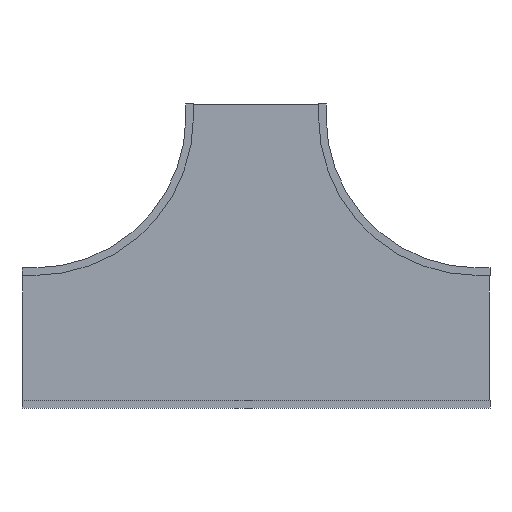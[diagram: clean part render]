
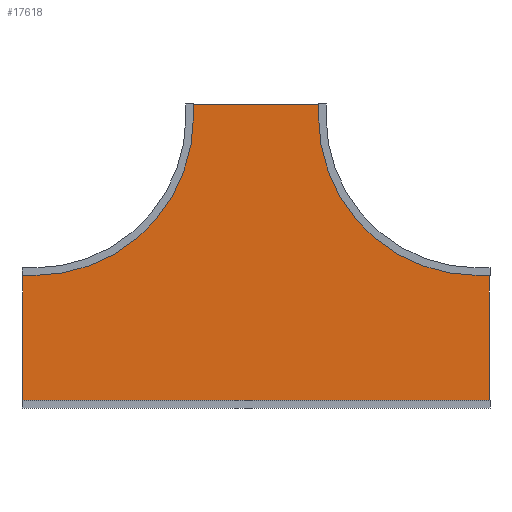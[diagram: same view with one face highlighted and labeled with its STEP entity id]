
A CAD part, front view. The second image highlights one B-rep face of the part: STEP entity #17618.
In plain terms, the highlighted planar face has unit normal (0, -1, 0).
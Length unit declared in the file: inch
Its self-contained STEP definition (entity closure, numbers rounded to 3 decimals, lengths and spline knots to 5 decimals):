
#17427=DIRECTION('',(1.,0.,0.));
#17428=VECTOR('',#17427,29.875);
#17429=CARTESIAN_POINT('',(-14.9375,0.,0.));
#17430=LINE('',#17429,#17428);
#17431=DIRECTION('',(0.,0.,-1.));
#17432=VECTOR('',#17431,2.875);
#17433=CARTESIAN_POINT('',(14.9375,0.,0.));
#17434=LINE('',#17433,#17432);
#17435=CARTESIAN_POINT('',(51.,0.,-2.875));
#17436=DIRECTION('',(0.,-1.,0.));
#17437=DIRECTION('',(-1.,0.,0.));
#17438=AXIS2_PLACEMENT_3D('',#17435,#17436,#17437);
#17440=DIRECTION('',(1.,0.,0.));
#17441=VECTOR('',#17440,2.875);
#17442=CARTESIAN_POINT('',(51.,0.,-38.9375));
#17443=LINE('',#17442,#17441);
#17444=DIRECTION('',(0.,0.,-1.));
#17445=VECTOR('',#17444,29.875);
#17446=CARTESIAN_POINT('',(53.875,0.,-38.9375));
#17447=LINE('',#17446,#17445);
#17448=DIRECTION('',(-1.,0.,0.));
#17449=VECTOR('',#17448,107.75);
#17450=CARTESIAN_POINT('',(53.875,0.,-68.8125));
#17451=LINE('',#17450,#17449);
#17452=DIRECTION('',(0.,0.,1.));
#17453=VECTOR('',#17452,29.875);
#17454=CARTESIAN_POINT('',(-53.875,0.,-68.8125));
#17455=LINE('',#17454,#17453);
#17456=DIRECTION('',(1.,0.,0.));
#17457=VECTOR('',#17456,2.875);
#17458=CARTESIAN_POINT('',(-53.875,0.,-38.9375));
#17459=LINE('',#17458,#17457);
#17460=CARTESIAN_POINT('',(-51.,0.,-2.875));
#17461=DIRECTION('',(0.,-1.,0.));
#17462=DIRECTION('',(0.,0.,-1.));
#17463=AXIS2_PLACEMENT_3D('',#17460,#17461,#17462);
#17465=DIRECTION('',(0.,0.,1.));
#17466=VECTOR('',#17465,2.875);
#17467=CARTESIAN_POINT('',(-14.9375,0.,-2.875));
#17468=LINE('',#17467,#17466);
#17551=CARTESIAN_POINT('',(-14.9375,0.,0.));
#17552=CARTESIAN_POINT('',(14.9375,0.,0.));
#17553=VERTEX_POINT('',#17551);
#17554=VERTEX_POINT('',#17552);
#17555=CARTESIAN_POINT('',(14.9375,0.,-2.875));
#17556=VERTEX_POINT('',#17555);
#17557=CARTESIAN_POINT('',(51.,0.,-38.9375));
#17558=VERTEX_POINT('',#17557);
#17559=CARTESIAN_POINT('',(53.875,0.,-38.9375));
#17560=VERTEX_POINT('',#17559);
#17561=CARTESIAN_POINT('',(53.875,0.,-68.8125));
#17562=VERTEX_POINT('',#17561);
#17563=CARTESIAN_POINT('',(-53.875,0.,-68.8125));
#17564=VERTEX_POINT('',#17563);
#17565=CARTESIAN_POINT('',(-53.875,0.,-38.9375));
#17566=VERTEX_POINT('',#17565);
#17567=CARTESIAN_POINT('',(-51.,0.,-38.9375));
#17568=VERTEX_POINT('',#17567);
#17569=CARTESIAN_POINT('',(-14.9375,0.,-2.875));
#17570=VERTEX_POINT('',#17569);
#17591=CARTESIAN_POINT('',(0.,0.,0.));
#17592=DIRECTION('',(0.,1.,0.));
#17593=DIRECTION('',(1.,0.,0.));
#17594=AXIS2_PLACEMENT_3D('',#17591,#17592,#17593);
#17595=PLANE('',#17594);
#17597=ORIENTED_EDGE('',*,*,#17596,.T.);
#17599=ORIENTED_EDGE('',*,*,#17598,.T.);
#17601=ORIENTED_EDGE('',*,*,#17600,.T.);
#17603=ORIENTED_EDGE('',*,*,#17602,.T.);
#17605=ORIENTED_EDGE('',*,*,#17604,.T.);
#17607=ORIENTED_EDGE('',*,*,#17606,.T.);
#17609=ORIENTED_EDGE('',*,*,#17608,.T.);
#17611=ORIENTED_EDGE('',*,*,#17610,.T.);
#17613=ORIENTED_EDGE('',*,*,#17612,.T.);
#17615=ORIENTED_EDGE('',*,*,#17614,.T.);
#17616=EDGE_LOOP('',(#17597,#17599,#17601,#17603,#17605,#17607,#17609,#17611,
#17613,#17615));
#17617=FACE_OUTER_BOUND('',#17616,.F.);
#17618=ADVANCED_FACE('',(#17617),#17595,.F.);
#17439=CIRCLE('',#17438,36.0625);
#17464=CIRCLE('',#17463,36.0625);
#17596=EDGE_CURVE('',#17553,#17554,#17430,.T.);
#17598=EDGE_CURVE('',#17554,#17556,#17434,.T.);
#17600=EDGE_CURVE('',#17556,#17558,#17439,.T.);
#17602=EDGE_CURVE('',#17558,#17560,#17443,.T.);
#17604=EDGE_CURVE('',#17560,#17562,#17447,.T.);
#17606=EDGE_CURVE('',#17562,#17564,#17451,.T.);
#17608=EDGE_CURVE('',#17564,#17566,#17455,.T.);
#17610=EDGE_CURVE('',#17566,#17568,#17459,.T.);
#17612=EDGE_CURVE('',#17568,#17570,#17464,.T.);
#17614=EDGE_CURVE('',#17570,#17553,#17468,.T.);
